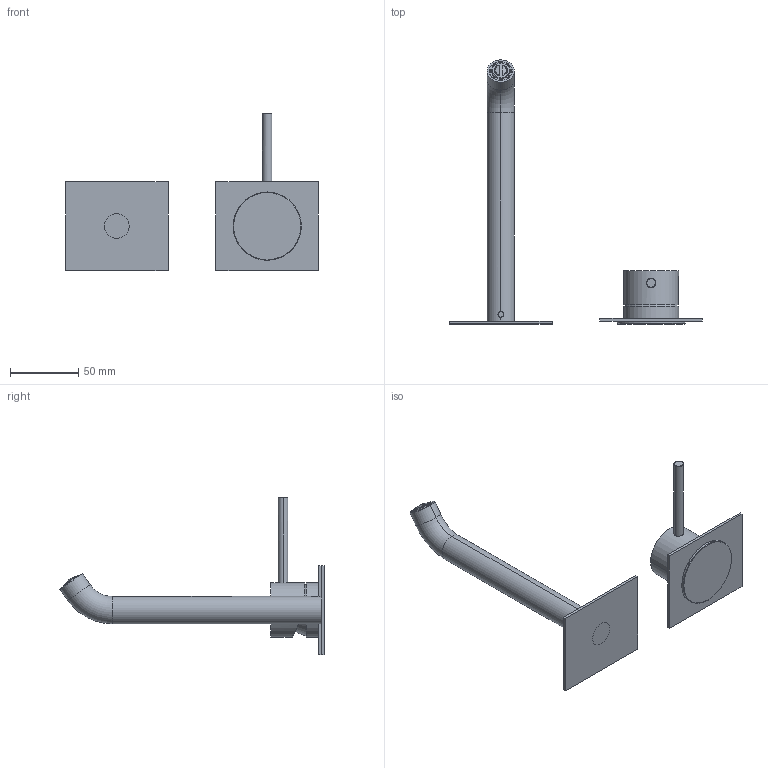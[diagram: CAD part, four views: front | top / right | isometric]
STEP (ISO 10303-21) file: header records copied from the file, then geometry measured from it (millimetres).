
FILE_DESCRIPTION((''),'2;1');
FILE_NAME('6954721_SW0001','2025-11-19T10:40:00',('carloff'),(''),'CREO PARAMETRIC BY PTC INC, 2022014','CREO PARAMETRIC BY PTC INC, 2022014','');
FILE_SCHEMA(('CONFIG_CONTROL_DESIGN'));
Products named in the file (1): 6954721_SW0001
Bounding box: 185 x 193.13 x 114.9 mm (x, y, z)
Volume: 76957.3 mm3; surface area: 56322.5 mm2
Topology: 3 solids, 3 shells, 1697 faces, 5032 edges, 3346 vertices
Faces by surface type: plane 1343, torus 124, cylinder 116, bspline 78, cone 27, sphere 6, extrusion 3
Entity records: 74910 total; most frequent: CARTESIAN_POINT 33248, ORIENTED_EDGE 10052, DIRECTION 6484, EDGE_CURVE 5026, VERTEX_POINT 3346, B_SPLINE_CURVE_WITH_KNOTS 2393, AXIS2_PLACEMENT_3D 2229, VECTOR 2026
